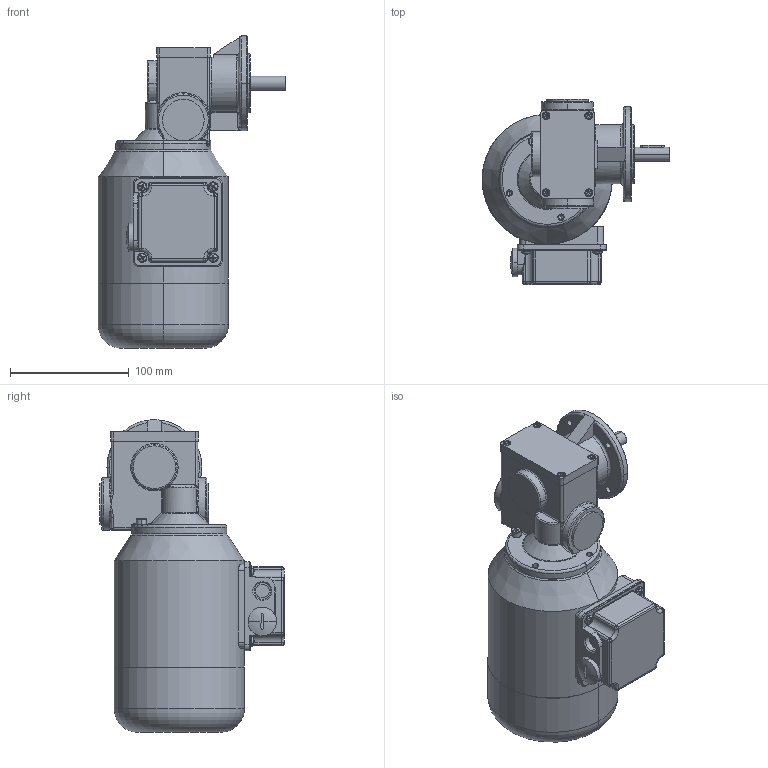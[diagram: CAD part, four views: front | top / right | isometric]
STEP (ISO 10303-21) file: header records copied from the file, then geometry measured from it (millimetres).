
FILE_DESCRIPTION (( 'STEP AP214' ), '1' );
FILE_NAME ('SN6F_120W_2800Upm_Drehstrom-Motor_C.STEP', '2021-08-10T08:49:00', ( '' ), ( '' ), 'SwSTEP 2.0', 'SolidWorks 2019', '' );
FILE_SCHEMA (( 'AUTOMOTIVE_DESIGN' ));
Length unit declared in the file: millimetre
Products named in the file (11): 06F-W-003_3D-Export; socket head cap screw_din_DIN 912 M3 x 10 --- 10C; socket head cap screw_din_DIN 912 M5 x 16 --- 16C; SN6F_3D-Export_alte Verschlusskappe 06-S-002; SN6F_120W_2800Upm_Drehstrom-Motor_C; NBR_WDR_12x32x7; 06-M-066 I 120W_2800Upm; 06F-D-003_3D-Export; 06F-G-002_3D-Export; PF_A4x4x20; 06-S-002
Assembly tree (14 placements, depth 3):
  SN6F_120W_2800Upm_Drehstrom-Motor_C
    SN6F_3D-Export_alte Verschlusskappe 06-S-002
      06F-G-002_3D-Export
      06F-D-003_3D-Export
      06F-W-003_3D-Export
      socket head cap screw_din_DIN 912 M3 x 10 --- 10C  x4
      socket head cap screw_din_DIN 912 M5 x 16 --- 16C
      NBR_WDR_12x32x7
      PF_A4x4x20
      06-S-002  x2
    06-M-066 I 120W_2800Upm
Bounding box: 158.5 x 156 x 263.5 mm (x, y, z)
Volume: 2012702.8 mm3; surface area: 173249.7 mm2
Topology: 14 solids, 14 shells, 889 faces, 2185 edges, 1318 vertices
Faces by surface type: cylinder 279, plane 215, torus 162, cone 146, bspline 59, sphere 28
Entity records: 28637 total; most frequent: CARTESIAN_POINT 9248, DIRECTION 4199, ORIENTED_EDGE 3880, EDGE_CURVE 1940, AXIS2_PLACEMENT_3D 1791, VERTEX_POINT 1205, CIRCLE 1036, EDGE_LOOP 863
